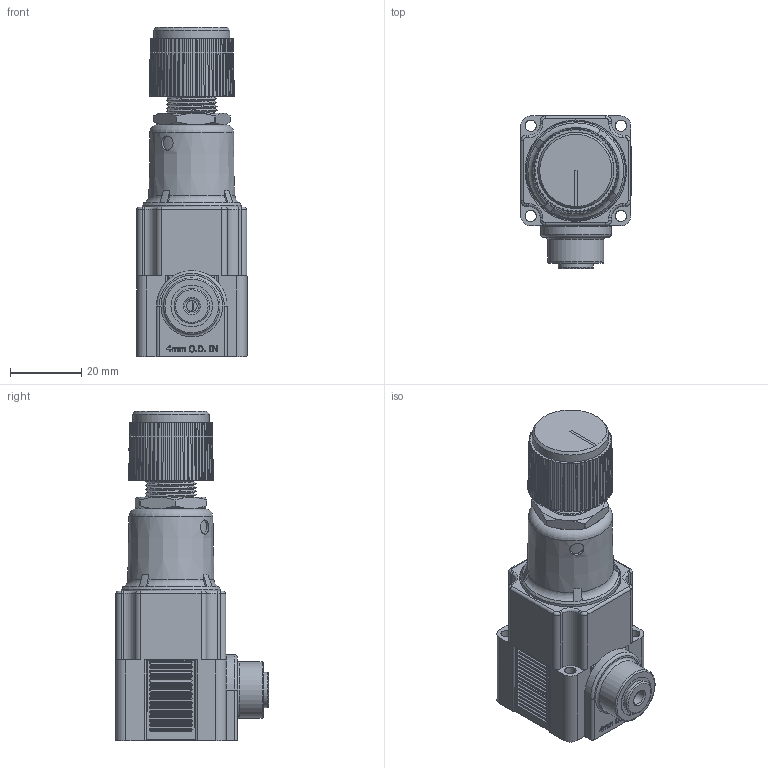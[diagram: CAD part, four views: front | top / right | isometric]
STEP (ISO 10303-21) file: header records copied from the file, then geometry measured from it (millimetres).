
FILE_DESCRIPTION(/* description */ (''),/* implementation_level */ '2;1');
FILE_NAME(/* name */ 'K:\Normteile INVENTOR\Air-Logic\Regulators\NR4000\NR 4___ 7 Push-In Fittings for 4 mm O.D. Tube In.igs.ipt.stp',/* time_stamp */ '2020-05-27T10:51:08+02:00',/* author */ ('Paul'),/* organization */ (''),/* preprocessor_version */ 'ST-DEVELOPER v18',/* originating_system */ 'Autodesk Inventor 2020',/* authorisation */ '');
FILE_SCHEMA (('AUTOMOTIVE_DESIGN { 1 0 10303 214 3 1 1 }'));
Length unit declared in the file: inch
Products named in the file (1): NR 4___ 7 Push-In Fittings for 4 mm O.D. Tube In.igs
Bounding box: 31.06 x 43.08 x 92.65 mm (x, y, z)
Volume: 57554.8 mm3; surface area: 19187.6 mm2
Topology: 1 solids, 1 shells, 1036 faces, 2676 edges, 1716 vertices
Faces by surface type: plane 526, cylinder 333, cone 82, bspline 69, torus 26
Full cylindrical faces by diameter (mm): 3.073 x1, 3.175 x4, 3.988 x1, 4.039 x1, 4.064 x1, 4.089 x1, 6.045 x1, 9.169 x1, 9.398 x1, 9.906 x1, 11.735 x1, 12.903 x1, 14.288 x2, 15.85 x1, 19.406 x1, 21.476 x1, 26.264 x1, 27.94 x1, 28.575 x1
Entity records: 40650 total; most frequent: CARTESIAN_POINT 14013, DIRECTION 5396, ORIENTED_EDGE 5352, EDGE_CURVE 2676, AXIS2_PLACEMENT_3D 2009, VERTEX_POINT 1716, LINE 1378, VECTOR 1378
